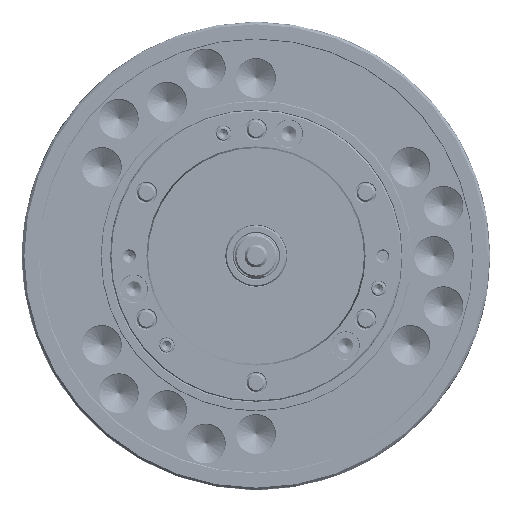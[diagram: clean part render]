
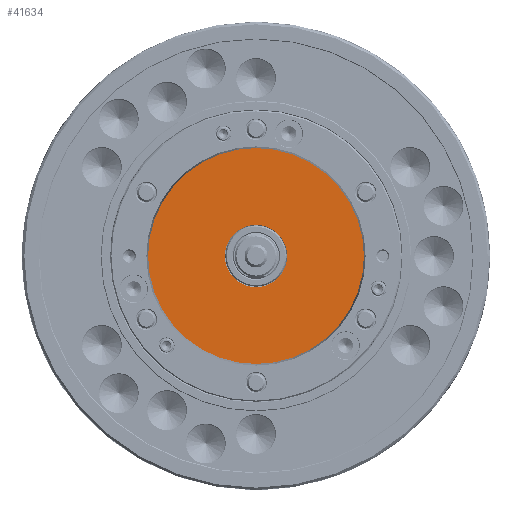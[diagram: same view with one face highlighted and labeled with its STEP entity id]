
A CAD part, left-side view. The second image highlights one B-rep face of the part: STEP entity #41634.
In plain terms, the highlighted planar face has unit normal (-1, 0, 0).
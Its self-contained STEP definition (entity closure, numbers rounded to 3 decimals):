
#15262 = ORIENTED_EDGE ( 'NONE', *, *, #252840, .T. ) ;
#18682 = CARTESIAN_POINT ( 'NONE',  ( -145., 140.7, 0. ) ) ;
#20051 = FACE_OUTER_BOUND ( 'NONE', #24399, .T. ) ;
#21426 = DIRECTION ( 'NONE',  ( 0., 0., -1. ) ) ;
#24399 = EDGE_LOOP ( 'NONE', ( #25558, #15262 ) ) ;
#25558 = ORIENTED_EDGE ( 'NONE', *, *, #266165, .T. ) ;
#26809 = CARTESIAN_POINT ( 'NONE',  ( -145., 0., 0. ) ) ;
#27360 = CARTESIAN_POINT ( 'NONE',  ( -145., 0., 0. ) ) ;
#28860 = ORIENTED_EDGE ( 'NONE', *, *, #64205, .F. ) ;
#41634 = ADVANCED_FACE ( 'NONE', ( #173708, #20051 ), #83005, .F. ) ;
#55979 = VERTEX_POINT ( 'NONE', #215330 ) ;
#64032 = CIRCLE ( 'NONE', #220241, 40.6 ) ;
#64205 = EDGE_CURVE ( 'NONE', #224968, #152976, #64032, .T. ) ;
#66025 = DIRECTION ( 'NONE',  ( 0., 0., 1. ) ) ;
#69875 = DIRECTION ( 'NONE',  ( 0., 0., 1. ) ) ;
#83005 = PLANE ( 'NONE',  #203832 ) ;
#90311 = DIRECTION ( 'NONE',  ( -1., 0., 0. ) ) ;
#92153 = EDGE_CURVE ( 'NONE', #152976, #224968, #97929, .T. ) ;
#94844 = CARTESIAN_POINT ( 'NONE',  ( -145., 0., 0. ) ) ;
#97929 = CIRCLE ( 'NONE', #178362, 40.6 ) ;
#107886 = CIRCLE ( 'NONE', #255076, 140.7 ) ;
#118542 = DIRECTION ( 'NONE',  ( 0., 0., 1. ) ) ;
#132637 = CARTESIAN_POINT ( 'NONE',  ( -145., 0., 140.7 ) ) ;
#133059 = DIRECTION ( 'NONE',  ( -1., 0., 0. ) ) ;
#134129 = DIRECTION ( 'NONE',  ( -1., 0., 0. ) ) ;
#135389 = DIRECTION ( 'NONE',  ( -1., 0., 0. ) ) ;
#152976 = VERTEX_POINT ( 'NONE', #187551 ) ;
#169985 = DIRECTION ( 'NONE',  ( 0., 0., 1. ) ) ;
#170769 = AXIS2_PLACEMENT_3D ( 'NONE', #27360, #90311, #169985 ) ;
#173708 = FACE_BOUND ( 'NONE', #241873, .T. ) ;
#178362 = AXIS2_PLACEMENT_3D ( 'NONE', #94844, #135389, #118542 ) ;
#187551 = CARTESIAN_POINT ( 'NONE',  ( -145., 0., -40.6 ) ) ;
#203832 = AXIS2_PLACEMENT_3D ( 'NONE', #18682, #212889, #21426 ) ;
#212889 = DIRECTION ( 'NONE',  ( 1., 0., 0. ) ) ;
#215330 = CARTESIAN_POINT ( 'NONE',  ( -145., 0., -140.7 ) ) ;
#220241 = AXIS2_PLACEMENT_3D ( 'NONE', #261250, #134129, #69875 ) ;
#224968 = VERTEX_POINT ( 'NONE', #253329 ) ;
#241873 = EDGE_LOOP ( 'NONE', ( #28860, #242779 ) ) ;
#242779 = ORIENTED_EDGE ( 'NONE', *, *, #92153, .F. ) ;
#245702 = VERTEX_POINT ( 'NONE', #132637 ) ;
#246773 = CIRCLE ( 'NONE', #170769, 140.7 ) ;
#252840 = EDGE_CURVE ( 'NONE', #55979, #245702, #107886, .T. ) ;
#253329 = CARTESIAN_POINT ( 'NONE',  ( -145., 0., 40.6 ) ) ;
#255076 = AXIS2_PLACEMENT_3D ( 'NONE', #26809, #133059, #66025 ) ;
#261250 = CARTESIAN_POINT ( 'NONE',  ( -145., 0., 0. ) ) ;
#266165 = EDGE_CURVE ( 'NONE', #245702, #55979, #246773, .T. ) ;
